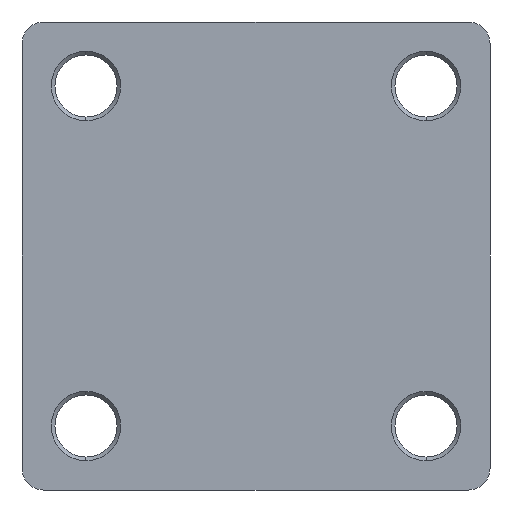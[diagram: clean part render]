
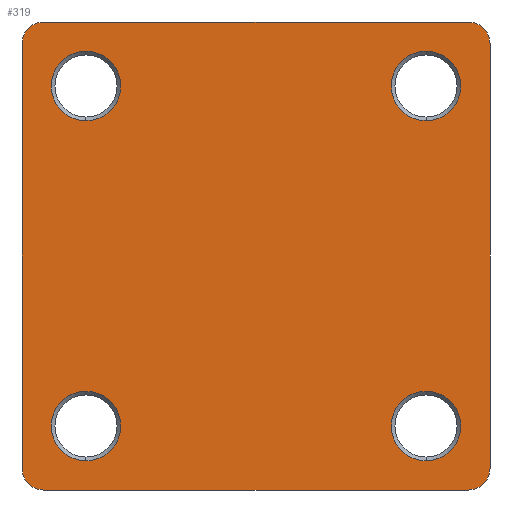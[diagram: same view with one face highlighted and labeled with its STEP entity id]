
A CAD part, left-side view. The second image highlights one B-rep face of the part: STEP entity #319.
In plain terms, the highlighted planar face has unit normal (-1, 0, 0).
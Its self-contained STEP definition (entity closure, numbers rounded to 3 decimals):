
#8 = LINE ( 'NONE', #1101, #1507 ) ;
#9 = DIRECTION ( 'NONE',  ( -1., 0., 0. ) ) ;
#12 = VERTEX_POINT ( 'NONE', #297 ) ;
#13 = CARTESIAN_POINT ( 'NONE',  ( -10., -23.25, -23.25 ) ) ;
#18 = CARTESIAN_POINT ( 'NONE',  ( -10., -23.25, 23.25 ) ) ;
#26 = AXIS2_PLACEMENT_3D ( 'NONE', #857, #577, #1173 ) ;
#42 = CARTESIAN_POINT ( 'NONE',  ( -10., -23.25, -18.5 ) ) ;
#87 = CARTESIAN_POINT ( 'NONE',  ( -10., -32., 29. ) ) ;
#93 = CIRCLE ( 'NONE', #423, 4.75 ) ;
#102 = EDGE_CURVE ( 'NONE', #911, #365, #93, .T. ) ;
#109 = AXIS2_PLACEMENT_3D ( 'NONE', #18, #891, #1041 ) ;
#133 = CIRCLE ( 'NONE', #1049, 4.75 ) ;
#134 = DIRECTION ( 'NONE',  ( 1., 0., 0. ) ) ;
#146 = CARTESIAN_POINT ( 'NONE',  ( -10., 29., 32. ) ) ;
#149 = CARTESIAN_POINT ( 'NONE',  ( -10., -23.25, 18.5 ) ) ;
#151 = CARTESIAN_POINT ( 'NONE',  ( -10., -23.25, -23.25 ) ) ;
#161 = CARTESIAN_POINT ( 'NONE',  ( -10., 32., 29. ) ) ;
#169 = CARTESIAN_POINT ( 'NONE',  ( -10., -23.25, -28. ) ) ;
#204 = VERTEX_POINT ( 'NONE', #42 ) ;
#209 = DIRECTION ( 'NONE',  ( 0., 0., -1. ) ) ;
#211 = AXIS2_PLACEMENT_3D ( 'NONE', #828, #987, #1574 ) ;
#216 = CIRCLE ( 'NONE', #109, 4.75 ) ;
#236 = DIRECTION ( 'NONE',  ( 0., 0., -1. ) ) ;
#241 = CIRCLE ( 'NONE', #1109, 4.75 ) ;
#249 = EDGE_CURVE ( 'NONE', #12, #650, #8, .T. ) ;
#274 = EDGE_CURVE ( 'NONE', #1735, #646, #1352, .T. ) ;
#287 = ORIENTED_EDGE ( 'NONE', *, *, #497, .F. ) ;
#292 = VERTEX_POINT ( 'NONE', #659 ) ;
#297 = CARTESIAN_POINT ( 'NONE',  ( -10., 32., -29. ) ) ;
#307 = CIRCLE ( 'NONE', #414, 3. ) ;
#319 = ADVANCED_FACE ( 'NONE', ( #1437, #565, #341, #1747, #688 ), #1833, .F. ) ;
#341 = FACE_BOUND ( 'NONE', #1383, .T. ) ;
#342 = CARTESIAN_POINT ( 'NONE',  ( -10., 29., -32. ) ) ;
#365 = VERTEX_POINT ( 'NONE', #1281 ) ;
#374 = AXIS2_PLACEMENT_3D ( 'NONE', #742, #1184, #1753 ) ;
#414 = AXIS2_PLACEMENT_3D ( 'NONE', #1176, #1603, #734 ) ;
#423 = AXIS2_PLACEMENT_3D ( 'NONE', #918, #923, #788 ) ;
#424 = EDGE_CURVE ( 'NONE', #1253, #1116, #530, .T. ) ;
#436 = EDGE_LOOP ( 'NONE', ( #860, #1785 ) ) ;
#437 = DIRECTION ( 'NONE',  ( 0., -1., 0. ) ) ;
#442 = CARTESIAN_POINT ( 'NONE',  ( -10., 23.25, -28. ) ) ;
#464 = CARTESIAN_POINT ( 'NONE',  ( -10., 29., 32. ) ) ;
#497 = EDGE_CURVE ( 'NONE', #1850, #12, #1454, .T. ) ;
#500 = DIRECTION ( 'NONE',  ( -1., 0., 0. ) ) ;
#509 = CARTESIAN_POINT ( 'NONE',  ( -10., 23.25, 28. ) ) ;
#521 = DIRECTION ( 'NONE',  ( 0., 0., 1. ) ) ;
#530 = CIRCLE ( 'NONE', #1289, 4.75 ) ;
#565 = FACE_BOUND ( 'NONE', #776, .T. ) ;
#577 = DIRECTION ( 'NONE',  ( 1., 0., 0. ) ) ;
#587 = ORIENTED_EDGE ( 'NONE', *, *, #1180, .F. ) ;
#637 = CIRCLE ( 'NONE', #211, 4.75 ) ;
#646 = VERTEX_POINT ( 'NONE', #1478 ) ;
#650 = VERTEX_POINT ( 'NONE', #161 ) ;
#654 = DIRECTION ( 'NONE',  ( 0., 0., 1. ) ) ;
#656 = EDGE_CURVE ( 'NONE', #1326, #1850, #1568, .T. ) ;
#659 = CARTESIAN_POINT ( 'NONE',  ( -10., -23.25, 28. ) ) ;
#665 = CARTESIAN_POINT ( 'NONE',  ( -10., -29., -32. ) ) ;
#668 = ORIENTED_EDGE ( 'NONE', *, *, #656, .F. ) ;
#688 = FACE_OUTER_BOUND ( 'NONE', #1661, .T. ) ;
#690 = ORIENTED_EDGE ( 'NONE', *, *, #1166, .F. ) ;
#705 = AXIS2_PLACEMENT_3D ( 'NONE', #811, #500, #654 ) ;
#720 = EDGE_CURVE ( 'NONE', #204, #1783, #133, .T. ) ;
#733 = EDGE_LOOP ( 'NONE', ( #1335, #1748 ) ) ;
#734 = DIRECTION ( 'NONE',  ( 0., 0., -1. ) ) ;
#742 = CARTESIAN_POINT ( 'NONE',  ( -10., 23.25, -23.25 ) ) ;
#743 = DIRECTION ( 'NONE',  ( 0., 1., 0. ) ) ;
#776 = EDGE_LOOP ( 'NONE', ( #1134, #1516 ) ) ;
#788 = DIRECTION ( 'NONE',  ( 0., 0., 1. ) ) ;
#791 = VECTOR ( 'NONE', #437, 1000. ) ;
#806 = ORIENTED_EDGE ( 'NONE', *, *, #1558, .F. ) ;
#807 = ORIENTED_EDGE ( 'NONE', *, *, #720, .F. ) ;
#811 = CARTESIAN_POINT ( 'NONE',  ( -10., -23.25, 23.25 ) ) ;
#822 = VECTOR ( 'NONE', #209, 1000. ) ;
#828 = CARTESIAN_POINT ( 'NONE',  ( -10., 23.25, 23.25 ) ) ;
#848 = VERTEX_POINT ( 'NONE', #1651 ) ;
#852 = CARTESIAN_POINT ( 'NONE',  ( -10., 29., -29. ) ) ;
#857 = CARTESIAN_POINT ( 'NONE',  ( -10., 29., 29. ) ) ;
#860 = ORIENTED_EDGE ( 'NONE', *, *, #1763, .F. ) ;
#889 = DIRECTION ( 'NONE',  ( 0., 0., 1. ) ) ;
#891 = DIRECTION ( 'NONE',  ( -1., 0., 0. ) ) ;
#911 = VERTEX_POINT ( 'NONE', #509 ) ;
#918 = CARTESIAN_POINT ( 'NONE',  ( -10., 23.25, 23.25 ) ) ;
#923 = DIRECTION ( 'NONE',  ( -1., 0., 0. ) ) ;
#950 = AXIS2_PLACEMENT_3D ( 'NONE', #1523, #1387, #1374 ) ;
#987 = DIRECTION ( 'NONE',  ( -1., 0., 0. ) ) ;
#988 = CARTESIAN_POINT ( 'NONE',  ( -10., 23.25, -23.25 ) ) ;
#1004 = EDGE_CURVE ( 'NONE', #365, #911, #637, .T. ) ;
#1021 = DIRECTION ( 'NONE',  ( 0., 0., 1. ) ) ;
#1024 = CIRCLE ( 'NONE', #374, 4.75 ) ;
#1041 = DIRECTION ( 'NONE',  ( 0., 0., 1. ) ) ;
#1046 = ORIENTED_EDGE ( 'NONE', *, *, #1749, .F. ) ;
#1049 = AXIS2_PLACEMENT_3D ( 'NONE', #151, #1186, #889 ) ;
#1083 = CARTESIAN_POINT ( 'NONE',  ( -10., 23.25, -18.5 ) ) ;
#1100 = EDGE_CURVE ( 'NONE', #1116, #1253, #1024, .T. ) ;
#1101 = CARTESIAN_POINT ( 'NONE',  ( -10., 32., -29. ) ) ;
#1109 = AXIS2_PLACEMENT_3D ( 'NONE', #13, #9, #1021 ) ;
#1116 = VERTEX_POINT ( 'NONE', #442 ) ;
#1124 = CARTESIAN_POINT ( 'NONE',  ( -10., -29., -29. ) ) ;
#1134 = ORIENTED_EDGE ( 'NONE', *, *, #102, .F. ) ;
#1147 = VERTEX_POINT ( 'NONE', #149 ) ;
#1166 = EDGE_CURVE ( 'NONE', #1783, #204, #241, .T. ) ;
#1173 = DIRECTION ( 'NONE',  ( 0., 0., -1. ) ) ;
#1176 = CARTESIAN_POINT ( 'NONE',  ( -10., -29., 29. ) ) ;
#1180 = EDGE_CURVE ( 'NONE', #848, #1735, #307, .T. ) ;
#1184 = DIRECTION ( 'NONE',  ( -1., 0., 0. ) ) ;
#1186 = DIRECTION ( 'NONE',  ( -1., 0., 0. ) ) ;
#1190 = LINE ( 'NONE', #146, #791 ) ;
#1205 = CARTESIAN_POINT ( 'NONE',  ( -10., -29., -32. ) ) ;
#1219 = ORIENTED_EDGE ( 'NONE', *, *, #1618, .F. ) ;
#1253 = VERTEX_POINT ( 'NONE', #1083 ) ;
#1281 = CARTESIAN_POINT ( 'NONE',  ( -10., 23.25, 18.5 ) ) ;
#1289 = AXIS2_PLACEMENT_3D ( 'NONE', #988, #1409, #1559 ) ;
#1294 = VERTEX_POINT ( 'NONE', #464 ) ;
#1326 = VERTEX_POINT ( 'NONE', #665 ) ;
#1328 = CARTESIAN_POINT ( 'NONE',  ( -10., -32., 29. ) ) ;
#1335 = ORIENTED_EDGE ( 'NONE', *, *, #424, .F. ) ;
#1352 = LINE ( 'NONE', #87, #822 ) ;
#1355 = ORIENTED_EDGE ( 'NONE', *, *, #249, .F. ) ;
#1374 = DIRECTION ( 'NONE',  ( 0., 0., -1. ) ) ;
#1383 = EDGE_LOOP ( 'NONE', ( #807, #690 ) ) ;
#1385 = EDGE_CURVE ( 'NONE', #1147, #292, #1408, .T. ) ;
#1387 = DIRECTION ( 'NONE',  ( 1., 0., 0. ) ) ;
#1408 = CIRCLE ( 'NONE', #705, 4.75 ) ;
#1409 = DIRECTION ( 'NONE',  ( -1., 0., 0. ) ) ;
#1437 = FACE_BOUND ( 'NONE', #733, .T. ) ;
#1441 = DIRECTION ( 'NONE',  ( 0., 0., -1. ) ) ;
#1449 = CIRCLE ( 'NONE', #26, 3. ) ;
#1454 = CIRCLE ( 'NONE', #1758, 3. ) ;
#1478 = CARTESIAN_POINT ( 'NONE',  ( -10., -32., -29. ) ) ;
#1507 = VECTOR ( 'NONE', #521, 1000. ) ;
#1516 = ORIENTED_EDGE ( 'NONE', *, *, #1004, .F. ) ;
#1523 = CARTESIAN_POINT ( 'NONE',  ( -10., -29., 29. ) ) ;
#1558 = EDGE_CURVE ( 'NONE', #646, #1326, #1676, .T. ) ;
#1559 = DIRECTION ( 'NONE',  ( 0., 0., 1. ) ) ;
#1568 = LINE ( 'NONE', #1205, #1637 ) ;
#1574 = DIRECTION ( 'NONE',  ( 0., 0., 1. ) ) ;
#1603 = DIRECTION ( 'NONE',  ( 1., 0., 0. ) ) ;
#1618 = EDGE_CURVE ( 'NONE', #650, #1294, #1449, .T. ) ;
#1637 = VECTOR ( 'NONE', #743, 1000. ) ;
#1651 = CARTESIAN_POINT ( 'NONE',  ( -10., -29., 32. ) ) ;
#1661 = EDGE_LOOP ( 'NONE', ( #587, #1046, #1219, #1355, #287, #668, #806, #1729 ) ) ;
#1676 = CIRCLE ( 'NONE', #1815, 3. ) ;
#1729 = ORIENTED_EDGE ( 'NONE', *, *, #274, .F. ) ;
#1735 = VERTEX_POINT ( 'NONE', #1328 ) ;
#1747 = FACE_BOUND ( 'NONE', #436, .T. ) ;
#1748 = ORIENTED_EDGE ( 'NONE', *, *, #1100, .F. ) ;
#1749 = EDGE_CURVE ( 'NONE', #1294, #848, #1190, .T. ) ;
#1753 = DIRECTION ( 'NONE',  ( 0., 0., 1. ) ) ;
#1758 = AXIS2_PLACEMENT_3D ( 'NONE', #852, #134, #1441 ) ;
#1763 = EDGE_CURVE ( 'NONE', #292, #1147, #216, .T. ) ;
#1783 = VERTEX_POINT ( 'NONE', #169 ) ;
#1785 = ORIENTED_EDGE ( 'NONE', *, *, #1385, .F. ) ;
#1815 = AXIS2_PLACEMENT_3D ( 'NONE', #1124, #1844, #236 ) ;
#1833 = PLANE ( 'NONE',  #950 ) ;
#1844 = DIRECTION ( 'NONE',  ( 1., 0., 0. ) ) ;
#1850 = VERTEX_POINT ( 'NONE', #342 ) ;
